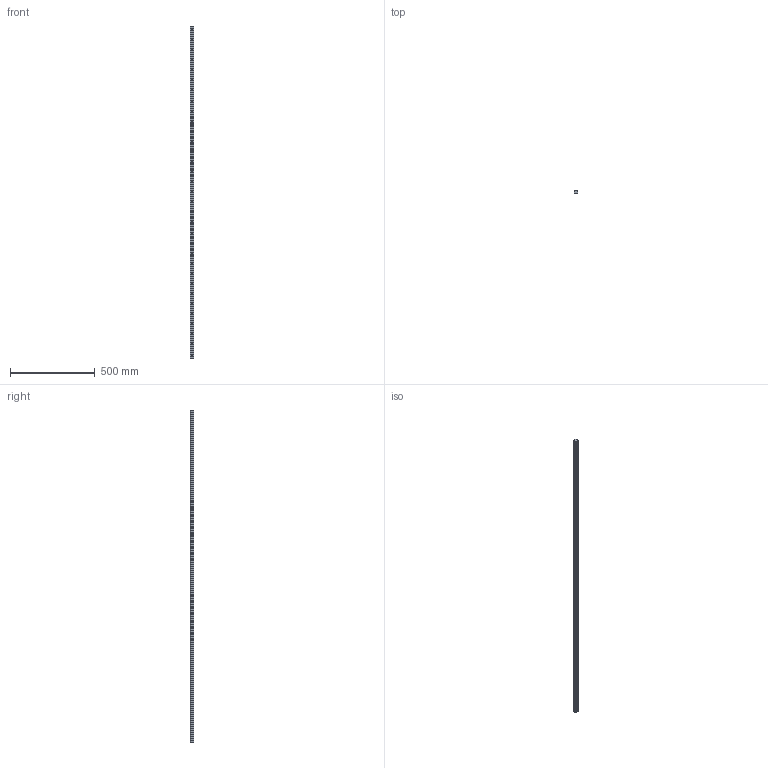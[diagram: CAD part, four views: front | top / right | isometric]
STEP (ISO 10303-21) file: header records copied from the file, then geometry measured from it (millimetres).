
FILE_DESCRIPTION (( 'STEP AP203' ), '1' );
FILE_NAME ('L1016.BRF25-1960.step', '2019-06-13T08:40:19', ( '' ), ( '' ), 'SwSTEP 2.0', 'SolidWorks 2017', '' );
FILE_SCHEMA (( 'CONFIG_CONTROL_DESIGN' ));
Length unit declared in the file: millimetre
Products named in the file (1): L1016.BRF25-1960
Bounding box: 23 x 19.2 x 1960 mm (x, y, z)
Volume: 748290.4 mm3; surface area: 180660 mm2
Topology: 1 solids, 1 shells, 257 faces, 600 edges, 345 vertices
Faces by surface type: cylinder 136, cone 66, plane 55
Entity records: 6973 total; most frequent: DIRECTION 1322, CARTESIAN_POINT 1137, ORIENTED_EDGE 1068, EDGE_CURVE 534, AXIS2_PLACEMENT_3D 530, VERTEX_POINT 345, EDGE_LOOP 323, CIRCLE 272
